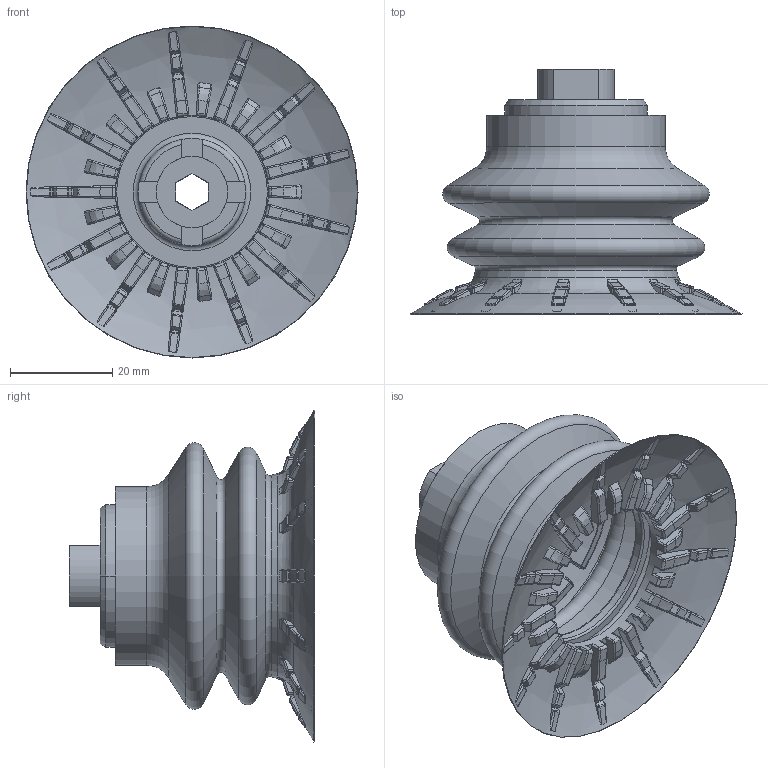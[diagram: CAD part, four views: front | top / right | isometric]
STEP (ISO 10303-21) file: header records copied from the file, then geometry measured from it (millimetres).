
FILE_DESCRIPTION (( 'STEP AP214' ), '1' );
FILE_NAME ('MB65P-3060T-G18F.STEP', '2026-05-27T14:21:54', ( '' ), ( '' ), 'SwSTEP 2.0', 'SolidWorks 2025', '' );
FILE_SCHEMA (( 'AUTOMOTIVE_DESIGN' ));
Length unit declared in the file: inch
Products named in the file (3): MB65P-3060T-G18F; 401.004; MB65P-3060T
Assembly tree (2 placements, depth 2):
  MB65P-3060T-G18F
    MB65P-3060T
    401.004
Bounding box: 65 x 48.02 x 65 mm (x, y, z)
Volume: 25746.4 mm3; surface area: 23712.9 mm2
Topology: 2 solids, 2 shells, 1997 faces, 4702 edges, 2716 vertices
Faces by surface type: bspline 812, plane 305, cylinder 263, torus 254, sphere 236, cone 127
Full cylindrical faces by diameter (mm): 10.5 x1, 12.5 x1, 14 x1, 21 x1, 30 x1, 31 x1, 35 x1, 36 x1
Entity records: 71538 total; most frequent: CARTESIAN_POINT 32554, ORIENTED_EDGE 9248, DIRECTION 6719, EDGE_CURVE 4624, AXIS2_PLACEMENT_3D 3100, VERTEX_POINT 2704, B_SPLINE_CURVE_WITH_KNOTS 2143, EDGE_LOOP 2074
